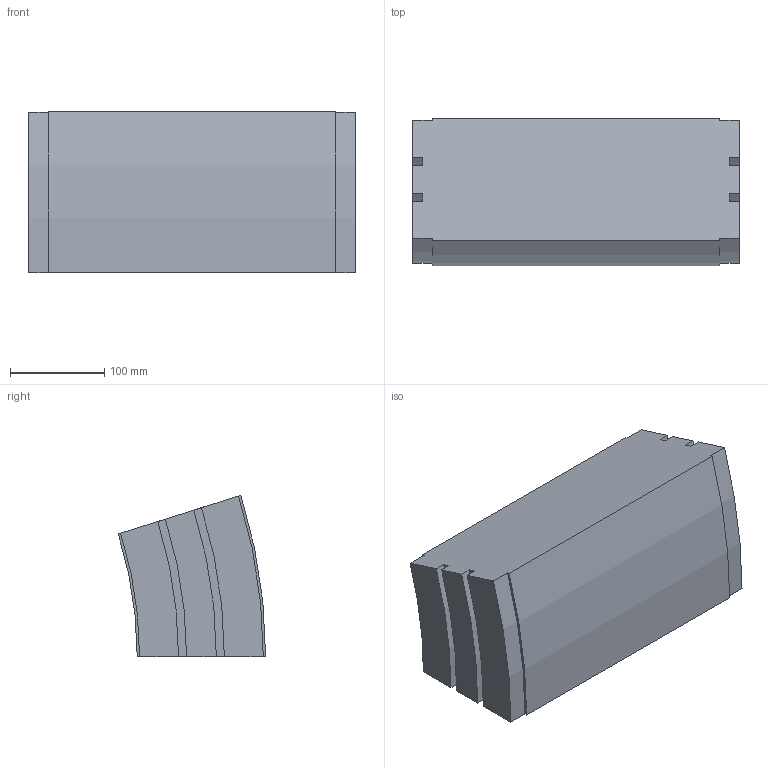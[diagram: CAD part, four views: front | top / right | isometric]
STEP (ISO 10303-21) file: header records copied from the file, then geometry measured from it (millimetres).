
FILE_DESCRIPTION (( 'STEP AP214' ), '1' );
FILE_NAME ('02.150V17.350.N FS-350-MTC-150 Bocht verticaal 17,5°.STEP', '2013-03-21T10:50:25', ( 'Gebruiker' ), ( '' ), 'SwSTEP 2.0', 'SolidWorks 2012', '' );
FILE_SCHEMA (( 'AUTOMOTIVE_DESIGN' ));
Length unit declared in the file: millimetre
Products named in the file (1): 02.150V17.350.N FS-350-MTC-150 Bocht verticaal 17,5°
Bounding box: 346 x 155.99 x 170.8 mm (x, y, z)
Volume: 7097032.3 mm3; surface area: 253601.6 mm2
Topology: 1 solids, 1 shells, 30 faces, 84 edges, 56 vertices
Faces by surface type: plane 16, cylinder 14
Entity records: 1010 total; most frequent: DIRECTION 174, CARTESIAN_POINT 171, ORIENTED_EDGE 168, EDGE_CURVE 84, AXIS2_PLACEMENT_3D 59, LINE 56, VECTOR 56, VERTEX_POINT 56
